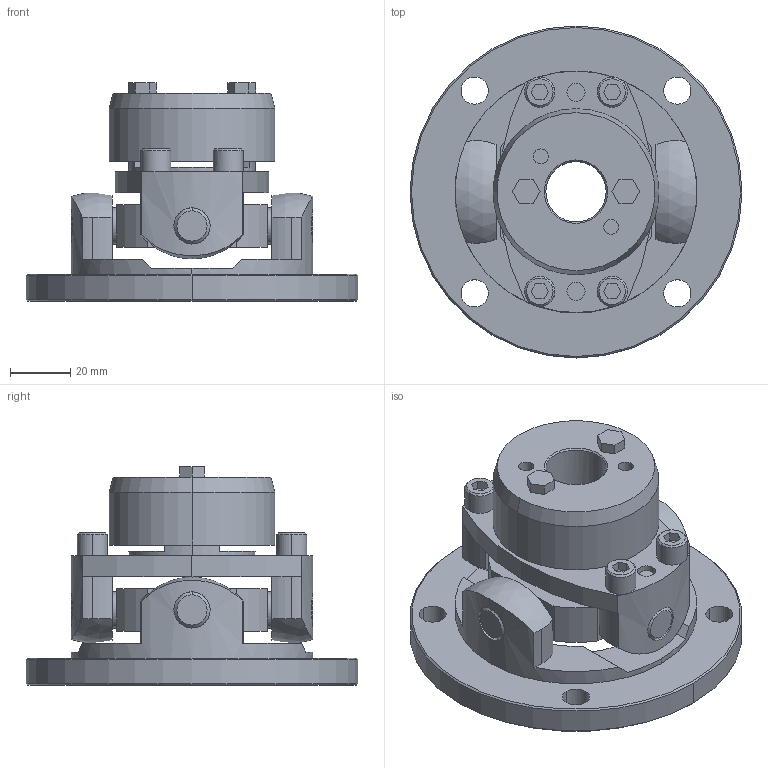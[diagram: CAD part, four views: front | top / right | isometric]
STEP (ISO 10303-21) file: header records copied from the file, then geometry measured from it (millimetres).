
FILE_DESCRIPTION((''),'2;1');
FILE_NAME('UCNF-80T7-20.stp','2011-09-17T16:24:54',(''),(''),'AutoCAD STEP 2000i','AutoCAD 2000i',', , ');
FILE_SCHEMA(('CONFIG_CONTROL_DESIGN'));
Length unit declared in the file: millimetre
Products named in the file (7): UCNF-80T7-19; 忣兜1; UCN80T7-T019; UCNF-8002; UCN80T7-T017-1; UCN80T7-T017; UCN80-SEN
Assembly tree (6 placements, depth 2):
  UCNF-80T7-19
    忣兜1
    UCN80T7-T019
    UCNF-8002
    UCN80T7-T017-1
    UCN80T7-T017
    UCN80-SEN
Bounding box: 110 x 110 x 72.5 mm (x, y, z)
Volume: 197531 mm3; surface area: 55179.3 mm2
Topology: 1 solids, 1 shells, 268 faces, 670 edges, 436 vertices
Faces by surface type: plane 122, cylinder 104, cone 38, sphere 4
Entity records: 8667 total; most frequent: CARTESIAN_POINT 1785, DIRECTION 1502, ORIENTED_EDGE 1340, EDGE_CURVE 670, AXIS2_PLACEMENT_3D 573, VERTEX_POINT 436, VECTOR 356, LINE 356
